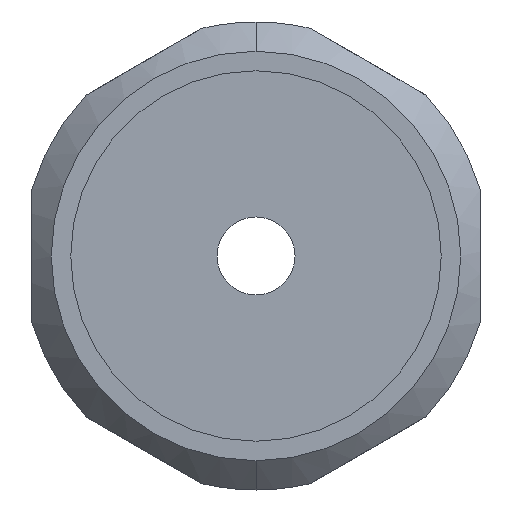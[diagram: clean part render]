
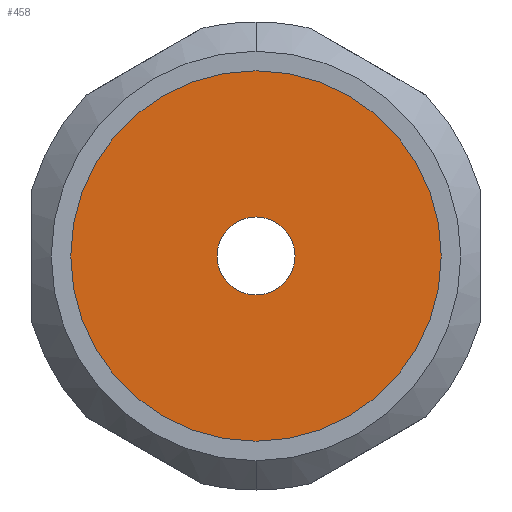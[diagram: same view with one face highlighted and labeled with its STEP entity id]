
A CAD part, front view. The second image highlights one B-rep face of the part: STEP entity #458.
In plain terms, the highlighted planar face has unit normal (0, -1, 0).
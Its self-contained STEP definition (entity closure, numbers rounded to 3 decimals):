
#9 = CARTESIAN_POINT ( 'NONE',  ( 2., 10., 0. ) ) ;
#29 = AXIS2_PLACEMENT_3D ( 'NONE', #496, #277, #948 ) ;
#51 = CARTESIAN_POINT ( 'NONE',  ( 9.5, 10., 0. ) ) ;
#59 = CARTESIAN_POINT ( 'NONE',  ( -9.5, 10., 0. ) ) ;
#71 = EDGE_LOOP ( 'NONE', ( #641, #281 ) ) ;
#88 = FACE_OUTER_BOUND ( 'NONE', #71, .T. ) ;
#185 = AXIS2_PLACEMENT_3D ( 'NONE', #650, #189, #722 ) ;
#189 = DIRECTION ( 'NONE',  ( 0., -1., 0. ) ) ;
#219 = DIRECTION ( 'NONE',  ( 0., -1., 0. ) ) ;
#266 = EDGE_CURVE ( 'NONE', #726, #698, #431, .T. ) ;
#276 = ORIENTED_EDGE ( 'NONE', *, *, #331, .F. ) ;
#277 = DIRECTION ( 'NONE',  ( 0., -1., 0. ) ) ;
#281 = ORIENTED_EDGE ( 'NONE', *, *, #266, .T. ) ;
#304 = DIRECTION ( 'NONE',  ( -1., 0., 0. ) ) ;
#331 = EDGE_CURVE ( 'NONE', #865, #515, #765, .T. ) ;
#362 = PLANE ( 'NONE',  #399 ) ;
#364 = DIRECTION ( 'NONE',  ( 0., -1., 0. ) ) ;
#368 = DIRECTION ( 'NONE',  ( 0., 0., -1. ) ) ;
#384 = CIRCLE ( 'NONE', #768, 2. ) ;
#387 = EDGE_CURVE ( 'NONE', #698, #726, #717, .T. ) ;
#399 = AXIS2_PLACEMENT_3D ( 'NONE', #781, #364, #368 ) ;
#413 = DIRECTION ( 'NONE',  ( 0., -1., 0. ) ) ;
#431 = CIRCLE ( 'NONE', #893, 9.5 ) ;
#458 = ADVANCED_FACE ( 'NONE', ( #849, #88 ), #362, .T. ) ;
#496 = CARTESIAN_POINT ( 'NONE',  ( 0., 10., 0. ) ) ;
#515 = VERTEX_POINT ( 'NONE', #9 ) ;
#627 = EDGE_LOOP ( 'NONE', ( #276, #700 ) ) ;
#641 = ORIENTED_EDGE ( 'NONE', *, *, #387, .T. ) ;
#650 = CARTESIAN_POINT ( 'NONE',  ( 0., 10., 0. ) ) ;
#686 = CARTESIAN_POINT ( 'NONE',  ( -2., 10., 0. ) ) ;
#698 = VERTEX_POINT ( 'NONE', #51 ) ;
#700 = ORIENTED_EDGE ( 'NONE', *, *, #863, .F. ) ;
#717 = CIRCLE ( 'NONE', #29, 9.5 ) ;
#722 = DIRECTION ( 'NONE',  ( -1., 0., 0. ) ) ;
#726 = VERTEX_POINT ( 'NONE', #59 ) ;
#761 = CARTESIAN_POINT ( 'NONE',  ( 0., 10., 0. ) ) ;
#765 = CIRCLE ( 'NONE', #185, 2. ) ;
#768 = AXIS2_PLACEMENT_3D ( 'NONE', #761, #219, #304 ) ;
#781 = CARTESIAN_POINT ( 'NONE',  ( -9.614, 10., 9.614 ) ) ;
#794 = CARTESIAN_POINT ( 'NONE',  ( 0., 10., 0. ) ) ;
#849 = FACE_BOUND ( 'NONE', #627, .T. ) ;
#863 = EDGE_CURVE ( 'NONE', #515, #865, #384, .T. ) ;
#865 = VERTEX_POINT ( 'NONE', #686 ) ;
#893 = AXIS2_PLACEMENT_3D ( 'NONE', #794, #413, #935 ) ;
#935 = DIRECTION ( 'NONE',  ( 1., 0., 0. ) ) ;
#948 = DIRECTION ( 'NONE',  ( 1., 0., 0. ) ) ;
